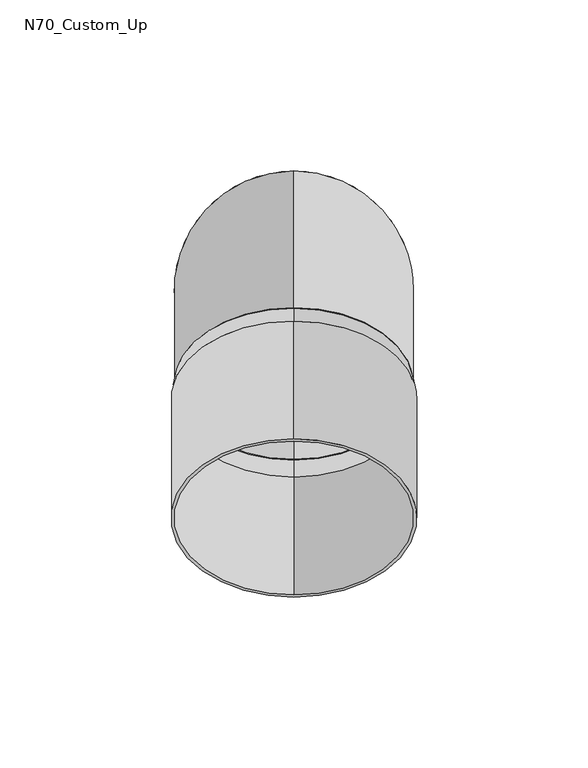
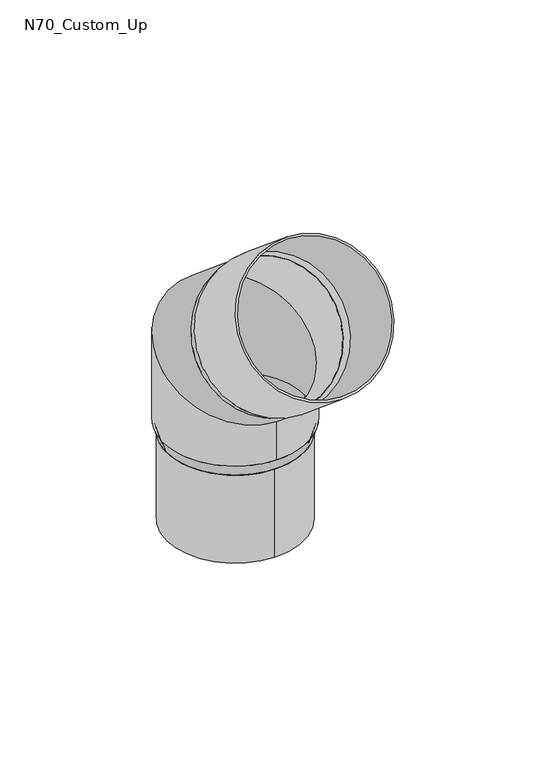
"""IFC4 building model written with IfcOpenShell, lengths in millimetres: proxy geometry, GROVIK_Downpipe_Knee : N70_Custom_Up."""

from ifc_helpers import new_model, si_unit, point, frame, origin, origin_with_axes, origin_2d, place, context, project, spatial, polyline, circle_curve, ellipse_curve, trimmed, segment, composite_curve, outline, extrude, source, transform, mapped, element, save
from ifc_brep_helpers import plane_surface, cylinder_surface, revolved_surface, advanced_brep


def n70_custom_up_ec6ad67a(model_context):
    return source(origin(), model_context, "Body", "SolidModel", [
        extrude(outline(composite_curve([segment(trimmed(circle_curve(origin_2d(), 33.2), [point((0.0, 33.2))], [point((0.0, -33.2))], False, "CARTESIAN"), True, "CONTINUOUS"), segment(trimmed(circle_curve(origin_2d(), 33.2), [point((0.0, -33.2))], [point((0.0, 33.2))], False, "CARTESIAN"), True, "CONTINUOUS")], self_intersect=False), holes=[composite_curve([segment(trimmed(circle_curve(origin_2d(), 32.2), [point((0.0, 32.2))], [point((0.0, -32.2))], True, "CARTESIAN"), True, "CONTINUOUS"), segment(trimmed(circle_curve(origin_2d(), 32.2), [point((0.0, -32.2))], [point((0.0, 32.2))], True, "CARTESIAN"), True, "CONTINUOUS")], self_intersect=False)]), frame((0.0, 0.0, -51.0), z_axis=(0.0, 0.0, 1.0), x_axis=(1.0, 0.0, 0.0)), (0.0, 0.0, 1.0), 45.0),
        advanced_brep(
        [(0.0, 35.0, 0.0), (0.0, -35.0, 0.0), (0.0, 34.0, 0.0), (0.0, -34.0, 0.0), (0.0, 34.0, 51.7544604), (0.0, -34.0, 20.0455396), (0.0, 35.0, 52.220768), (0.0, -35.0, 19.579232), (0.0, -5.0034292, 85.7876307), (0.0, -49.9985618, 32.1645197), (0.0, -5.6462168, 85.0215863), (0.0, -49.3557742, 32.9305641)],
        [
            (0, 1, circle_curve(frame((0.0, 0.0, 0.0), z_axis=(0.0, 0.0, -1.0), x_axis=(0.0, -1.0, 0.0)), 35.0)),
            (1, 0, circle_curve(frame((0.0, 0.0, 0.0), z_axis=(0.0, 0.0, -1.0), x_axis=(0.0, -1.0, 0.0)), 35.0)),
            (2, 3, circle_curve(frame((0.0, 0.0, 0.0), z_axis=(0.0, 0.0, 1.0), x_axis=(0.0, -1.0, 0.0)), 34.0)),
            (3, 2, circle_curve(frame((0.0, 0.0, 0.0), z_axis=(0.0, 0.0, 1.0), x_axis=(0.0, -1.0, 0.0)), 34.0)),
            (2, 4),
            (4, 5, ellipse_curve(frame((0.0, 0.0, 35.9), z_axis=(0.0, -0.4226182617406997, 0.9063077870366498), x_axis=(0.0, 0.9063077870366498, 0.4226182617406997)), 37.5148492, 34.0)),
            (5, 3),
            (5, 4, ellipse_curve(frame((0.0, 0.0, 35.9), z_axis=(0.0, -0.4226182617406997, 0.9063077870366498), x_axis=(0.0, 0.9063077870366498, 0.4226182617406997)), 37.5148492, 34.0)),
            (0, 6),
            (6, 7, ellipse_curve(frame((0.0, 0.0, 35.9), z_axis=(0.0, 0.4226182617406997, -0.9063077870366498), x_axis=(0.0, -0.9063077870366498, -0.4226182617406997)), 38.6182272, 35.0)),
            (7, 1),
            (7, 6, ellipse_curve(frame((0.0, 0.0, 35.9), z_axis=(0.0, 0.4226182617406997, -0.9063077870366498), x_axis=(0.0, -0.9063077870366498, -0.4226182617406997)), 38.6182272, 35.0)),
            (8, 9, circle_curve(frame((0.0, -27.5009955, 58.9760752), z_axis=(0.0, -0.7660444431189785, 0.6427876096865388), x_axis=(0.0, -0.6427876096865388, -0.7660444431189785)), 35.0)),
            (9, 8, circle_curve(frame((0.0, -27.5009955, 58.9760752), z_axis=(0.0, -0.7660444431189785, 0.6427876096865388), x_axis=(0.0, -0.6427876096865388, -0.7660444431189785)), 35.0)),
            (10, 11, circle_curve(frame((0.0, -27.5009955, 58.9760752), z_axis=(0.0, 0.7660444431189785, -0.6427876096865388), x_axis=(0.0, -0.6427876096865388, -0.7660444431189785)), 34.0)),
            (11, 10, circle_curve(frame((0.0, -27.5009955, 58.9760752), z_axis=(0.0, 0.7660444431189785, -0.6427876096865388), x_axis=(0.0, -0.6427876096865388, -0.7660444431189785)), 34.0)),
            (4, 10),
            (11, 5),
            (6, 8),
            (9, 7),
        ],
        [
            plane_surface(frame((0.0, 0.0, 0.0), z_axis=(0.0, 0.0, -1.0), x_axis=(1.0, 0.0, 0.0))),
            revolved_surface(polyline([(0.0, -34.0, 51.7544604), (0.0, -34.0, 0.0)]), (0.0, 0.0, 0.0), (0.0, 0.0, 1.0)),
            cylinder_surface(frame((0.0, 0.0, 0.0), z_axis=(0.0, 0.0, -1.0), x_axis=(0.0, -1.0, 0.0)), 35.0),
            plane_surface(frame((0.0, -27.5009955, 58.9760752), z_axis=(0.0, -0.7660444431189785, 0.6427876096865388), x_axis=(1.0, 0.0, 0.0))),
            revolved_surface(polyline([(0.0, -49.355774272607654, 32.93056415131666), (0.0, -9.709557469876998, -0.33656174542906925)]), (0.0, 0.0, 35.9), (0.0, -0.7660444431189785, 0.6427876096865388)),
            cylinder_surface(frame((0.0, 0.0, 35.9), z_axis=(0.0, 0.7660444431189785, -0.6427876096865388), x_axis=(0.0, -0.6427876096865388, -0.7660444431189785)), 35.0),
        ],
        [
            (0, [[1, 2], [3, 4]]),
            (1, [[-3, 5, 6, 7]]),
            (1, [[-4, -7, 8, -5]]),
            (2, [[-1, 9, 10, 11]]),
            (2, [[-2, -11, 12, -9]]),
            (3, [[13, 14], [15, 16]]),
            (4, [[-6, 17, -16, 18]]),
            (4, [[-8, -18, -15, -17]]),
            (5, [[-10, 19, -14, 20]]),
            (5, [[-12, -20, -13, -19]]),
        ],
    ),
        advanced_brep(
        [(-33.2, 0.0, -6.0), (33.2, 0.0, -6.0), (-32.2, 0.0, -6.0), (32.2, 0.0, -6.0), (-35.0, 0.0, 0.0), (35.0, 0.0, 0.0), (34.0, 0.0, 0.0), (-34.0, 0.0, 0.0)],
        [
            (0, 1, circle_curve(frame((0.0, 0.0, -6.0), z_axis=(0.0, 0.0, -1.0), x_axis=(-1.0, 0.0, 0.0)), 33.2)),
            (1, 0, circle_curve(frame((0.0, 0.0, -6.0), z_axis=(0.0, 0.0, -1.0), x_axis=(1.0, 0.0, 0.0)), 33.2)),
            (2, 3, circle_curve(frame((0.0, 0.0, -6.0), z_axis=(0.0, 0.0, 1.0), x_axis=(1.0, 0.0, 0.0)), 32.2)),
            (3, 2, circle_curve(frame((0.0, 0.0, -6.0), z_axis=(0.0, 0.0, 1.0), x_axis=(-1.0, 0.0, 0.0)), 32.2)),
            (4, 5, circle_curve(origin_with_axes(), 35.0)),
            (5, 4, circle_curve(frame((0.0, 0.0, 0.0), z_axis=(0.0, 0.0, 1.0), x_axis=(-1.0, 0.0, 0.0)), 35.0)),
            (6, 7, circle_curve(frame((0.0, 0.0, 0.0), z_axis=(0.0, 0.0, -1.0), x_axis=(1.0, 0.0, 0.0)), 34.0)),
            (7, 6, circle_curve(frame((0.0, 0.0, 0.0), z_axis=(0.0, 0.0, -1.0), x_axis=(-1.0, 0.0, 0.0)), 34.0)),
            (1, 5),
            (4, 0),
            (6, 3),
            (2, 7),
        ],
        [
            plane_surface(frame((0.0, 0.0, -6.0), z_axis=(0.0, 0.0, -1.0), x_axis=(0.0, 1.0, 0.0))),
            plane_surface(frame((0.0, 0.0, 0.0), z_axis=(0.0, 0.0, 1.0), x_axis=(0.0, 1.0, 0.0))),
            revolved_surface(polyline([(33.20000000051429, 0.0, -6.0), (35.0, 0.0, 0.0)]), (0.0, 0.0, -116.6666667), (0.0, 0.0, 1.0)),
            revolved_surface(polyline([(-33.20000000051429, 0.0, -6.0), (-35.0, 0.0, 0.0)]), (0.0, 0.0, -116.6666667), (0.0, 0.0, 1.0)),
            revolved_surface(polyline([(34.0, 0.0, 0.0), (32.19999999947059, 0.0, -6.0)]), (0.0, 0.0, -113.3333333), (0.0, 0.0, 1.0)),
        ],
        [
            (0, [[1, 2], [3, 4]]),
            (1, [[5, 6], [7, 8]]),
            (2, [[-2, 9, -5, 10]]),
            (3, [[-1, -10, -6, -9]]),
            (4, [[11, -3, 12, -7]]),
            (4, [[-11, -8, -12, -4]]),
        ],
    ),
        extrude(outline(composite_curve([segment(trimmed(circle_curve(origin_2d(), 36.0), [point((0.0, -35.9999999))], [point((0.0, 36.0000001))], False, "CARTESIAN"), True, "CONTINUOUS"), segment(trimmed(circle_curve(origin_2d(), 36.0), [point((0.0, 36.0000001))], [point((0.0, -35.9999999))], False, "CARTESIAN"), True, "CONTINUOUS")], self_intersect=False), holes=[composite_curve([segment(trimmed(circle_curve(origin_2d(), 35.0), [point((0.0, -35.0))], [point((0.0, 35.0000001))], True, "CARTESIAN"), True, "CONTINUOUS"), segment(trimmed(circle_curve(origin_2d(), 35.0), [point((0.0, 35.0000001))], [point((0.0, -35.0))], True, "CARTESIAN"), True, "CONTINUOUS")], self_intersect=False)]), frame((0.0, -32.0972622, 62.8328008), z_axis=(0.0, -0.7660444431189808, 0.642787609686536), x_axis=(1.0, 0.0, 0.0)), (0.0, 0.0, 1.0), 45.0),
        advanced_brep(
        [(0.0, -49.9985618, 32.1645197), (0.0, -5.0034292, 85.7876307), (0.0, -5.6462168, 85.0215863), (0.0, -49.3557742, 32.9305641), (0.0, -55.2376161, 35.2552009), (0.0, -8.9569082, 90.4104008), (0.0, -54.5948285, 36.0212453), (0.0, -9.5996958, 89.6443564)],
        [
            (0, 1, circle_curve(frame((0.0, -27.5009955, 58.9760752), z_axis=(0.0, 0.7660444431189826, -0.6427876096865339), x_axis=(0.0, -0.6427876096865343, -0.7660444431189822)), 35.0)),
            (1, 0, circle_curve(frame((0.0, -27.5009955, 58.9760752), z_axis=(0.0, 0.7660444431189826, -0.6427876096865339), x_axis=(0.0, 0.6427876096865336, 0.7660444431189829)), 35.0)),
            (2, 3, circle_curve(frame((0.0, -27.5009955, 58.9760752), z_axis=(0.0, -0.766044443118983, 0.6427876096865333), x_axis=(0.0, -0.6427876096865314, -0.7660444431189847)), 34.0)),
            (3, 2, circle_curve(frame((0.0, -27.5009955, 58.9760752), z_axis=(0.0, -0.766044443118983, 0.6427876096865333), x_axis=(0.0, 0.6427876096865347, 0.7660444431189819)), 34.0)),
            (4, 5, circle_curve(frame((0.0, -32.0972622, 62.8328008), z_axis=(0.0, -0.7660444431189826, 0.6427876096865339), x_axis=(0.0, 0.6427876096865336, 0.7660444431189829)), 36.0)),
            (5, 4, circle_curve(frame((0.0, -32.0972622, 62.8328008), z_axis=(0.0, -0.7660444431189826, 0.6427876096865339), x_axis=(0.0, -0.6427876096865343, -0.7660444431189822)), 36.0)),
            (6, 7, circle_curve(frame((0.0, -32.0972622, 62.8328008), z_axis=(0.0, 0.766044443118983, -0.6427876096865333), x_axis=(0.0, -0.6427876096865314, -0.7660444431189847)), 35.0)),
            (7, 6, circle_curve(frame((0.0, -32.0972622, 62.8328008), z_axis=(0.0, 0.766044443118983, -0.6427876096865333), x_axis=(0.0, 0.6427876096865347, 0.7660444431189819)), 35.0)),
            (0, 4),
            (5, 1),
            (6, 3),
            (2, 7),
        ],
        [
            plane_surface(frame((0.0, -27.5009955, 58.9760752), z_axis=(0.0, 0.7660444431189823, -0.6427876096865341), x_axis=(-1.0, 0.0, 0.0))),
            plane_surface(frame((0.0, -32.0972622, 62.8328008), z_axis=(0.0, -0.7660444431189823, 0.6427876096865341), x_axis=(-1.0, 0.0, 0.0))),
            revolved_surface(polyline([(0.0, -49.998561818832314, 32.16451967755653), (0.0, -55.23761610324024, 35.255200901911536)]), (0.0, 133.3683375, -76.0093228), (0.0, -0.7660444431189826, 0.6427876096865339)),
            revolved_surface(polyline([(0.0, -5.003429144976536, 85.78763069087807), (0.0, -8.95690820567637, 90.41040080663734)]), (0.0, 133.3683375, -76.0093228), (0.0, -0.7660444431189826, 0.6427876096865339)),
            revolved_surface(polyline([(0.0, -54.59482853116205, 36.021245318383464), (0.0, -49.35577421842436, 32.93056407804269)]), (0.0, 128.7720709, -72.1525972), (0.0, -0.7660444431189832, 0.6427876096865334)),
        ],
        [
            (0, [[1, 2], [3, 4]]),
            (1, [[5, 6], [7, 8]]),
            (2, [[-1, 9, -6, 10]]),
            (3, [[-2, -10, -5, -9]]),
            (4, [[11, -3, 12, -7]]),
            (4, [[-11, -8, -12, -4]]),
        ],
    ),
    ])


if __name__ == "__main__":
    model = new_model("IFC4")
    model_context = context("Model", 3, world=origin())
    ifc_project = project(units=[si_unit("LENGTHUNIT", "METRE", prefix="MILLI")], contexts=[model_context])
    site = spatial("IfcSite", under=ifc_project)
    building = spatial("IfcBuilding", under=site)
    placement = place(None, origin())
    n70_custom_up_shape = n70_custom_up_ec6ad67a(model_context)
    element("IfcBuildingElementProxy", 1, Name="GROVIK_Downpipe_Knee : N70_Custom_Up", ObjectType="GROVIK_Downpipe_Knee : N70_Custom_Up", at=placement, inside=building, context=model_context, shape_type="MappedRepresentation", body=[
        mapped(n70_custom_up_shape, transform((0.0, 0.0, 0.0), x_axis=(1.0, 0.0, 0.0), y_axis=(0.0, 1.0, 0.0), z_axis=(0.0, 0.0, 1.0))),
    ])
    save(model, "model.ifc")
